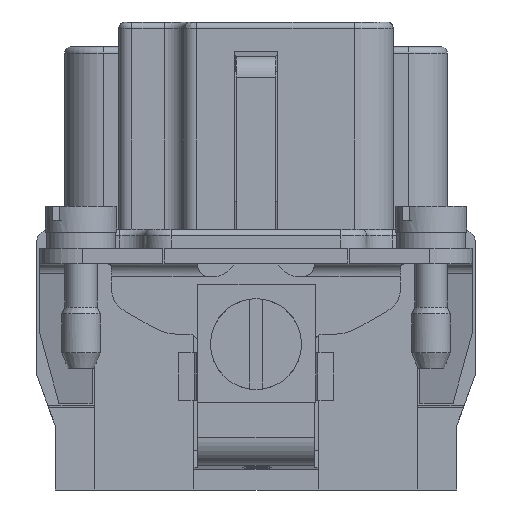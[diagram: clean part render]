
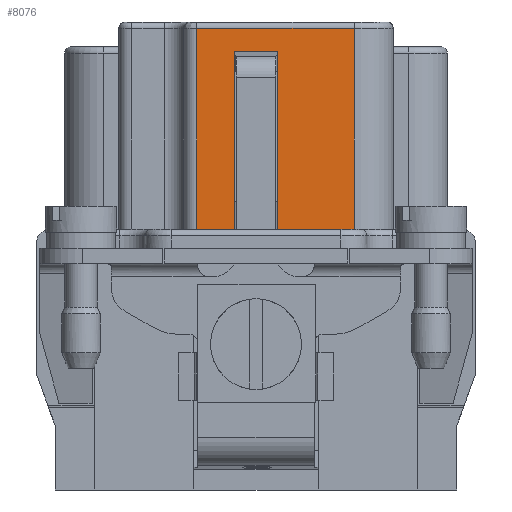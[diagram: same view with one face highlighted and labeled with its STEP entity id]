
A CAD part, left-side view. The second image highlights one B-rep face of the part: STEP entity #8076.
In plain terms, the highlighted planar face has unit normal (-1, 0, 0).
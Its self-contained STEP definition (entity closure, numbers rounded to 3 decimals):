
#2175=FACE_OUTER_BOUND('',#10425,.T.);
#3908=LINE('',#32068,#5658);
#4087=LINE('',#32471,#5837);
#4099=LINE('',#32511,#5849);
#4258=LINE('',#32893,#6008);
#4259=LINE('',#32894,#6009);
#4260=LINE('',#32895,#6010);
#4261=LINE('',#32897,#6011);
#4262=LINE('',#32899,#6012);
#5658=VECTOR('',#25784,1.);
#5837=VECTOR('',#26093,1.);
#5849=VECTOR('',#26129,1.);
#6008=VECTOR('',#26462,1.);
#6009=VECTOR('',#26463,1.);
#6010=VECTOR('',#26464,1.);
#6011=VECTOR('',#26465,1.);
#6012=VECTOR('',#26466,1.);
#7429=PLANE('',#23706);
#8076=ADVANCED_FACE('',(#2175),#7429,.F.);
#10425=EDGE_LOOP('',(#13053,#13054,#13055,#13056,#13057,#13058,#13059,#13060));
#13053=ORIENTED_EDGE('',*,*,#20312,.F.);
#13054=ORIENTED_EDGE('',*,*,#20536,.T.);
#13055=ORIENTED_EDGE('',*,*,#20116,.F.);
#13056=ORIENTED_EDGE('',*,*,#20537,.T.);
#13057=ORIENTED_EDGE('',*,*,#20336,.F.);
#13058=ORIENTED_EDGE('',*,*,#20538,.T.);
#13059=ORIENTED_EDGE('',*,*,#20539,.T.);
#13060=ORIENTED_EDGE('',*,*,#20540,.T.);
#18078=VERTEX_POINT('',#32067);
#18079=VERTEX_POINT('',#32069);
#18236=VERTEX_POINT('',#32469);
#18238=VERTEX_POINT('',#32472);
#18253=VERTEX_POINT('',#32510);
#18254=VERTEX_POINT('',#32512);
#18382=VERTEX_POINT('',#32896);
#18383=VERTEX_POINT('',#32898);
#20116=EDGE_CURVE('',#18078,#18079,#3908,.T.);
#20312=EDGE_CURVE('',#18236,#18238,#4087,.T.);
#20336=EDGE_CURVE('',#18253,#18254,#4099,.T.);
#20536=EDGE_CURVE('',#18236,#18079,#4258,.T.);
#20537=EDGE_CURVE('',#18078,#18254,#4259,.T.);
#20538=EDGE_CURVE('',#18253,#18382,#4260,.T.);
#20539=EDGE_CURVE('',#18382,#18383,#4261,.T.);
#20540=EDGE_CURVE('',#18383,#18238,#4262,.T.);
#23706=AXIS2_PLACEMENT_3D('',#32900,#26467,#26468);
#25784=DIRECTION('',(0.,1.,0.));
#26093=DIRECTION('',(0.,1.,0.));
#26129=DIRECTION('',(0.,1.,0.));
#26462=DIRECTION('',(0.,0.,1.));
#26463=DIRECTION('',(0.,0.,-1.));
#26464=DIRECTION('',(0.,0.,1.));
#26465=DIRECTION('',(0.,1.,0.));
#26466=DIRECTION('',(0.,0.,-1.));
#26467=DIRECTION('',(1.,0.,0.));
#26468=DIRECTION('',(0.,0.,1.));
#32067=CARTESIAN_POINT('',(-20.336,-0.528,5.6));
#32068=CARTESIAN_POINT('',(-20.336,6.737,5.6));
#32069=CARTESIAN_POINT('',(-20.336,2.852,5.6));
#32469=CARTESIAN_POINT('',(-20.336,2.852,-8.15));
#32471=CARTESIAN_POINT('',(-20.336,-5.388,-8.15));
#32472=CARTESIAN_POINT('',(-20.336,5.737,-8.15));
#32510=CARTESIAN_POINT('',(-20.336,-6.413,-8.15));
#32511=CARTESIAN_POINT('',(-20.336,-5.388,-8.15));
#32512=CARTESIAN_POINT('',(-20.336,-0.528,-8.15));
#32893=CARTESIAN_POINT('',(-20.336,2.852,7.85));
#32894=CARTESIAN_POINT('',(-20.336,-0.528,7.85));
#32895=CARTESIAN_POINT('',(-20.336,-6.413,7.85));
#32896=CARTESIAN_POINT('',(-20.336,-6.413,7.35));
#32897=CARTESIAN_POINT('',(-20.336,5.737,7.35));
#32898=CARTESIAN_POINT('',(-20.336,5.737,7.35));
#32899=CARTESIAN_POINT('',(-20.336,5.737,7.85));
#32900=CARTESIAN_POINT('',(-20.336,6.737,7.85));
